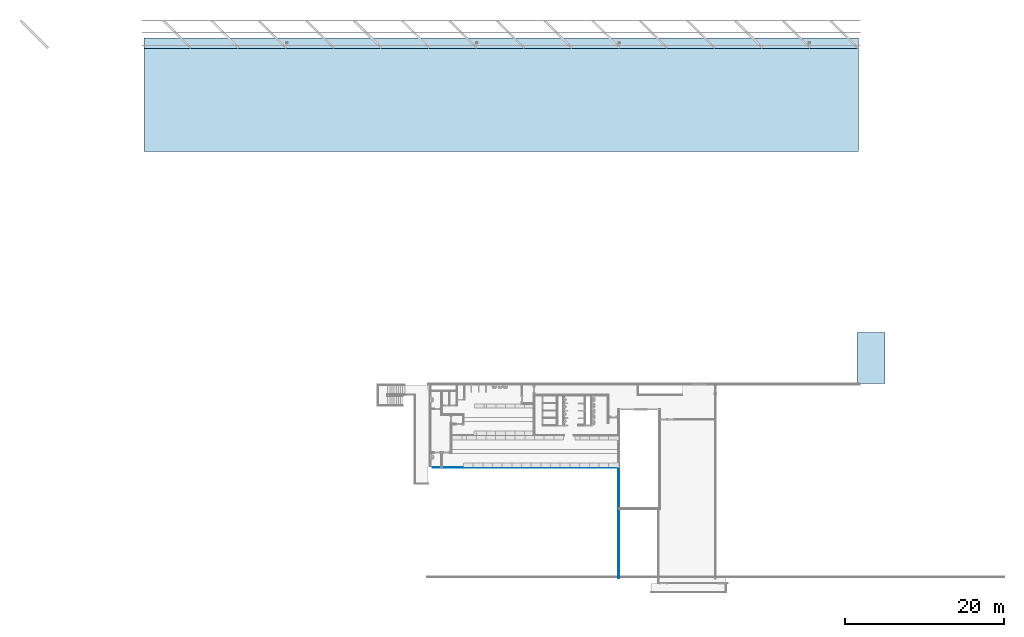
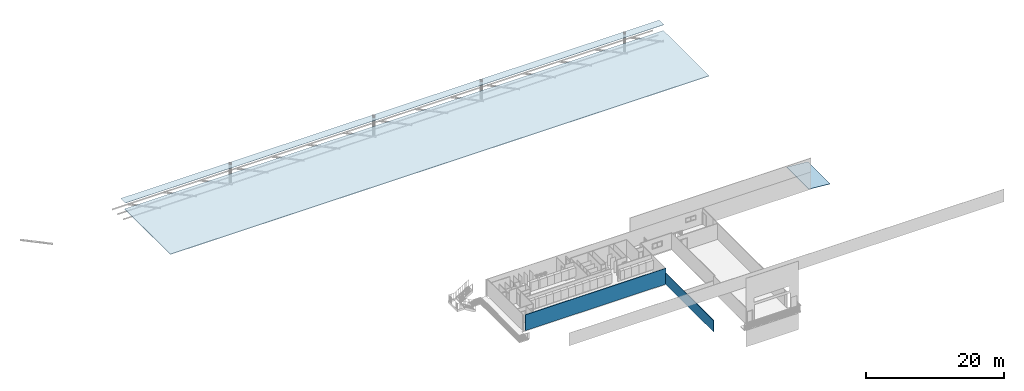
# One storey, part 4 of 14: 3 slabs, 2 walls, 1 element without a shape of its own.
"""IFC2X3 building model written with IfcOpenShell, lengths in millimetres."""

import ifcopenshell
import ifcopenshell.guid

model = None  # the IFC model being written
_history = None  # IfcOwnerHistory: only IFC2X3 demands one
_inside = {}  # id of a spatial element -> (the spatial element, [elements in it])
_under = {}  # id of a project, library or spatial element -> (it, [spatial elements below it])
_declared = {}  # id of a project -> (the project, [libraries it declares])
_typed = {}  # id of a type object -> (the type object, [elements of that type])
_made_of = {}  # id of a material, layer set ... -> (it, [elements and type objects made of it])


def new_model(schema):
    """Start an empty IFC model of exactly this schema.

    Asked for "IFC4X3", IfcOpenShell would pick the latest addendum, in which some entities
    have other attributes; the version numbers below select the first issue.
    IFC2X3 requires an IfcOwnerHistory on every rooted entity: one is made here for all.
    """
    global model, _history
    if schema == "IFC4X3":
        model = ifcopenshell.file(schema_version=(4, 3, 0, 0))
    else:
        model = ifcopenshell.file(schema=schema)
    _inside.clear()
    _under.clear()
    _declared.clear()
    _typed.clear()
    _made_of.clear()
    _history = None
    if model.schema == "IFC2X3":
        org = make("IfcOrganization", Name="unknown")
        user = make(
            "IfcPersonAndOrganization",
            ThePerson=make("IfcPerson", FamilyName="unknown"),
            TheOrganization=org,
        )
        app = make(
            "IfcApplication",
            ApplicationDeveloper=org,
            Version="unknown",
            ApplicationFullName="unknown",
            ApplicationIdentifier="unknown",
        )
        _history = make(
            "IfcOwnerHistory",
            OwningUser=user,
            OwningApplication=app,
            ChangeAction="ADDED",
            CreationDate=0,
        )
    return model


def make(cls, **values):
    """One entity of the class cls with the attributes given. An attribute that is None is left unset."""
    return model.create_entity(
        cls, **{name: value for name, value in values.items() if value is not None}
    )


def entity(cls, *values):
    """Any entity or typed value of the class cls, its attributes in the order of the schema. None: left unset."""
    e = model.create_entity(cls)
    for i, value in enumerate(values):
        if value is not None:
            e[i] = value
    return e


def rooted(cls, **values):
    """An entity with a GlobalId (a new one), such as an element, a storey or a relation."""
    return make(cls, GlobalId=ifcopenshell.guid.new(), OwnerHistory=_history, **values)


def si_unit(unit_type, name, prefix=None):
    """IfcSIUnit, for example si_unit("LENGTHUNIT", "METRE", prefix="MILLI")."""
    return make("IfcSIUnit", UnitType=unit_type, Prefix=prefix, Name=name)


def converted_unit(unit_type, name, factor, base, dimensions=None, offset=None):
    """IfcConversionBasedUnit, such as the inch: factor (a typed value) times the base unit."""
    return make(
        "IfcConversionBasedUnit"
        if offset is None
        else "IfcConversionBasedUnitWithOffset",
        ConversionOffset=offset,
        Dimensions=None
        if dimensions is None
        else entity("IfcDimensionalExponents", *dimensions),
        UnitType=unit_type,
        Name=name,
        ConversionFactor=make(
            "IfcMeasureWithUnit", ValueComponent=factor, UnitComponent=base
        ),
    )


def derived_unit(unit_type, elements):
    """IfcDerivedUnit: a product of units, each with its exponent."""
    return make(
        "IfcDerivedUnit",
        Elements=[
            make("IfcDerivedUnitElement", Unit=unit, Exponent=power)
            for unit, power in elements
        ],
        UnitType=unit_type,
    )


def assignment(units):
    """IfcUnitAssignment: the units of a project."""
    return None if units is None else make("IfcUnitAssignment", Units=units)


def point(xyz):
    """IfcCartesianPoint."""
    return None if xyz is None else make("IfcCartesianPoint", Coordinates=xyz)


def direction(xyz):
    """IfcDirection."""
    return None if xyz is None else make("IfcDirection", DirectionRatios=xyz)


def frame(location, z_axis=None, x_axis=None):
    """IfcAxis2Placement3D, a coordinate frame: its origin and axes. An axis left out is left unset."""
    return make(
        "IfcAxis2Placement3D",
        Location=point(location),
        Axis=direction(z_axis),
        RefDirection=direction(x_axis),
    )


def frame_2d(location, x_axis=None):
    """IfcAxis2Placement2D, a coordinate frame in the plane: its origin and x axis."""
    return make(
        "IfcAxis2Placement2D", Location=point(location), RefDirection=direction(x_axis)
    )


def origin():
    """The frame at (0, 0, 0) with its axes left unset."""
    return frame((0.0, 0.0, 0.0))


def place(relative_to, where):
    """IfcLocalPlacement: puts the frame where relative to a parent placement (None: the world)."""
    return make(
        "IfcLocalPlacement", PlacementRelTo=relative_to, RelativePlacement=where
    )


def context(
    kind, dimensions, precision=None, world=None, true_north=None, identifier=None
):
    """IfcGeometricRepresentationContext, for example the 3D "Model" context."""
    return make(
        "IfcGeometricRepresentationContext",
        ContextIdentifier=identifier,
        ContextType=kind,
        CoordinateSpaceDimension=dimensions,
        Precision=precision,
        WorldCoordinateSystem=world,
        TrueNorth=true_north,
    )


def subcontext(parent, identifier, kind, view, scale=None):
    """IfcGeometricRepresentationSubContext, for example "Body" below "Model"."""
    return make(
        "IfcGeometricRepresentationSubContext",
        ContextIdentifier=identifier,
        ContextType=kind,
        ParentContext=parent,
        TargetScale=scale,
        TargetView=view,
    )


def project(units=None, contexts=None):
    """IfcProject with its units and contexts."""
    return rooted(
        "IfcProject",
        Name="project",
        RepresentationContexts=contexts,
        UnitsInContext=assignment(units),
    )


def spatial(cls, under=None, at=None, **own):
    """A site, building, storey or space (cls), placed at a placement, below another one or the project."""
    s = rooted(cls, ObjectPlacement=at, **own)
    if under is not None:
        _under.setdefault(under.id(), (under, []))[1].append(s)
    return s


def profile(cls, at=None, kind="AREA", **sizes):
    """A parametric profile (cls). Its sizes go by their IFC names, for example OverallWidth=200.0."""
    return make(cls, ProfileType=kind, Position=at, **sizes)


def rectangle(**sizes):
    """IfcRectangleProfileDef."""
    return profile("IfcRectangleProfileDef", **sizes)


def extrude(swept, where, along, depth):
    """IfcExtrudedAreaSolid: the profile swept, set in the frame where, extruded along a direction by depth."""
    return make(
        "IfcExtrudedAreaSolid",
        SweptArea=swept,
        Position=where,
        ExtrudedDirection=direction(along),
        Depth=depth,
    )


def shape(context_of_items, identifier, shape_type, items):
    """IfcShapeRepresentation: the items that make up one representation, for example the "Body"."""
    return make(
        "IfcShapeRepresentation",
        ContextOfItems=context_of_items,
        RepresentationIdentifier=identifier,
        RepresentationType=shape_type,
        Items=items,
    )


def material(Name=None, Category=None):
    """IfcMaterial."""
    return make("IfcMaterial", Name=Name, Category=Category)


def layer(
    of_material, thickness, ventilated=None, Name=None, Category=None, Priority=None
):
    """IfcMaterialLayer: one layer of a wall or slab, of a material (None: an air gap)."""
    return make(
        "IfcMaterialLayer",
        Material=of_material,
        LayerThickness=thickness,
        IsVentilated=ventilated,
        Name=Name,
        Category=Category,
        Priority=Priority,
    )


def layer_set(layers, Name=None):
    """IfcMaterialLayerSet."""
    return make("IfcMaterialLayerSet", MaterialLayers=layers, LayerSetName=Name)


def layer_usage(for_layer_set, set_direction, sense, offset, extent=None):
    """IfcMaterialLayerSetUsage: how a layer set lies in its element."""
    return make(
        "IfcMaterialLayerSetUsage",
        ForLayerSet=for_layer_set,
        LayerSetDirection=set_direction,
        DirectionSense=sense,
        OffsetFromReferenceLine=offset,
        ReferenceExtent=extent,
    )


def made_of(thing, what):
    """Note that an element or type object is made of a material, layer set ...; save() writes the relation."""
    if what is not None:
        _made_of.setdefault(what.id(), (what, []))[1].append(thing)
    return thing


def type_object(cls, material=None, **own):
    """A type object (cls), such as IfcWallType, which elements share."""
    return made_of(rooted(cls, **own), material)


def element(
    cls,
    number,
    at=None,
    inside=None,
    cuts=None,
    type_object=None,
    material=None,
    context=None,
    identifier="Body",
    shape_type=None,
    held_by="IfcProductDefinitionShape",
    body=None,
    shapes=None,
    **own,
):
    """One element of the class cls, such as IfcWall. Its Tag is "e" and its number.

    at: its placement. inside: the storey or other place that contains it. cuts: it is an
    opening in that element (IfcRelVoidsElement). A single representation is given by context,
    identifier, shape_type and body (its items); several are given by shapes. held_by: the class
    of the entity that holds the representations. save() writes the other relations.
    """
    e = rooted(cls, Tag="e%d" % number, ObjectPlacement=at, **own)
    if body is not None:
        shapes = [shape(context, identifier, shape_type, body)]
    if shapes is not None:
        e.Representation = make(held_by, Representations=shapes)
    if inside is not None:
        _inside.setdefault(inside.id(), (inside, []))[1].append(e)
    if cuts is not None:
        rooted(
            "IfcRelVoidsElement", RelatingBuildingElement=cuts, RelatedOpeningElement=e
        )
    if type_object is not None:
        _typed.setdefault(type_object.id(), (type_object, []))[1].append(e)
    return made_of(e, material)


def aggregate(whole, parts):
    """IfcRelAggregates: a whole, such as a stair, and the parts it consists of."""
    return rooted("IfcRelAggregates", RelatingObject=whole, RelatedObjects=parts)


def save(model, path):
    """Write the relations noted so far, then the file.

    IfcRelAggregates (storeys below a building ...), IfcRelContainedInSpatialStructure (elements
    in a storey), IfcRelDefinesByType, IfcRelAssociatesMaterial and IfcRelDeclares: one each for
    every whole, place, type object, material and project.
    """
    for whole, parts in _under.values():
        aggregate(whole, parts)
    for where, things in _inside.values():
        rooted(
            "IfcRelContainedInSpatialStructure",
            RelatedElements=things,
            RelatingStructure=where,
        )
    for kind, things in _typed.values():
        rooted("IfcRelDefinesByType", RelatedObjects=things, RelatingType=kind)
    for what, things in _made_of.values():
        rooted("IfcRelAssociatesMaterial", RelatedObjects=things, RelatingMaterial=what)
    for by, libraries in _declared.values():
        rooted("IfcRelDeclares", RelatingContext=by, RelatedDefinitions=libraries)
    model.write(path)


model = new_model("IFC2X3")

# Units and contexts
model_context = context("Model", 3, precision=0.01, world=origin(), true_north=direction((4.05803320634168e-15, -1.0)))
body_context = subcontext(model_context, "Body", "Model", "MODEL_VIEW")
ifc_project = project(units=[si_unit("LENGTHUNIT", "METRE", prefix="MILLI"), si_unit("AREAUNIT", "SQUARE_METRE"), si_unit("VOLUMEUNIT", "CUBIC_METRE"), converted_unit("PLANEANGLEUNIT", "DEGREE", entity("IfcRatioMeasure", 0.0174532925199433), si_unit("PLANEANGLEUNIT", "RADIAN"), dimensions=[0, 0, 0, 0, 0, 0, 0]), si_unit("MASSUNIT", "GRAM", prefix="KILO"), derived_unit("MASSDENSITYUNIT", [(si_unit("MASSUNIT", "GRAM", prefix="KILO"), 1), (si_unit("LENGTHUNIT", "METRE"), -3)]), si_unit("TIMEUNIT", "SECOND"), si_unit("FREQUENCYUNIT", "HERTZ"), si_unit("THERMODYNAMICTEMPERATUREUNIT", "DEGREE_CELSIUS"), derived_unit("THERMALTRANSMITTANCEUNIT", [(si_unit("MASSUNIT", "GRAM", prefix="KILO"), 1), (si_unit("THERMODYNAMICTEMPERATUREUNIT", "KELVIN"), -1), (si_unit("TIMEUNIT", "SECOND"), -3)]), derived_unit("VOLUMETRICFLOWRATEUNIT", [(si_unit("LENGTHUNIT", "METRE"), 3), (si_unit("TIMEUNIT", "SECOND"), -1)]), si_unit("ELECTRICCURRENTUNIT", "AMPERE"), si_unit("ELECTRICVOLTAGEUNIT", "VOLT"), si_unit("POWERUNIT", "WATT"), si_unit("FORCEUNIT", "NEWTON", prefix="KILO"), si_unit("ILLUMINANCEUNIT", "LUX"), si_unit("LUMINOUSFLUXUNIT", "LUMEN"), si_unit("LUMINOUSINTENSITYUNIT", "CANDELA"), derived_unit("USERDEFINED", [(si_unit("MASSUNIT", "GRAM", prefix="KILO"), -1), (si_unit("LENGTHUNIT", "METRE"), -2), (si_unit("TIMEUNIT", "SECOND"), 3), (si_unit("LUMINOUSFLUXUNIT", "LUMEN"), 1)]), derived_unit("LINEARVELOCITYUNIT", [(si_unit("LENGTHUNIT", "METRE"), 1), (si_unit("TIMEUNIT", "SECOND"), -1)]), si_unit("PRESSUREUNIT", "PASCAL"), derived_unit("USERDEFINED", [(si_unit("LENGTHUNIT", "METRE"), -2), (si_unit("MASSUNIT", "GRAM", prefix="KILO"), 1), (si_unit("TIMEUNIT", "SECOND"), -2)])], contexts=[model_context])

# Site, building, storey
site_placement = place(None, frame((927466.849349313, 583801.882853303, 0.0), z_axis=(0.0, 0.0, 1.0), x_axis=(-1.0, 0.0, 0.0)))
site = spatial("IfcSite", under=ifc_project, at=site_placement, Name="Surface", CompositionType="ELEMENT")
building_placement = place(site_placement, origin())
building = spatial("IfcBuilding", under=site, at=building_placement, CompositionType="ELEMENT")
storey_placement = place(building_placement, frame((0.0, 0.0, 48170.0)))
storey = spatial("IfcBuildingStorey", under=building, at=storey_placement, Name="First floor", CompositionType="ELEMENT", Elevation=48170.0)

# Slabs
ifc_material_1 = material(Name="Cladding")
ifc_layer_1 = layer(ifc_material_1, 50.0)
ifc_layer_set_1 = layer_set([ifc_layer_1], Name="Floor:cladding")
ifc_layer_usage_1 = layer_usage(ifc_layer_set_1, "AXIS3", "POSITIVE", 0.0)
slab_1_placement = place(storey_placement, origin())
element("IfcSlab", 1, at=slab_1_placement, inside=storey, material=ifc_layer_usage_1, Name="Floor:cladding", ObjectType="Floor:cladding", PredefinedType="FLOOR", context=body_context, shape_type="SweptSolid", body=[
    extrude(rectangle(XDim=1338.00000000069, YDim=89999.9999999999, at=frame_2d((0.0, 7.27595761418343e-12), x_axis=(1.0, 0.0))), frame((-90100.59177989, -30990.7403210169, 3250.0), z_axis=(0.0, 0.0, -1.0), x_axis=(0.0, 1.0, 0.0)), (0.0, 0.0, 1.0), 49.9999999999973),
])
ifc_material_2 = material(Name="Isopenal")
ifc_layer_2 = layer(ifc_material_2, 100.0)
ifc_layer_set_2 = layer_set([ifc_layer_2], Name="Floor:isopanel ceiling")
ifc_layer_usage_2 = layer_usage(ifc_layer_set_2, "AXIS3", "POSITIVE", 0.0)
slab_2_placement = place(storey_placement, origin())
element("IfcSlab", 2, at=slab_2_placement, inside=storey, material=ifc_layer_usage_2, Name="Floor:isopanel ceiling", ObjectType="Floor:isopanel ceiling", PredefinedType="FLOOR", context=body_context, shape_type="SweptSolid", body=[
    extrude(rectangle(XDim=13200.0000000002, YDim=89999.9999999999, at=frame_2d((0.0, 7.27595761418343e-12), x_axis=(1.0, 0.0))), frame((-90100.5917798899, -23921.7403210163, 2100.0), z_axis=(0.0, 0.0, -1.0), x_axis=(0.0, 1.0, 0.0)), (0.0, 0.0, 1.0), 100.000000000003),
])

# Roof, slab
roof_placement = place(storey_placement, frame((-138445.77985842, 5475.22253534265, -500.0)))
roof = element("IfcRoof", 3, at=roof_placement, inside=storey, Name="Basic Roof:50", ObjectType="Basic Roof:50", ShapeType="NOTDEFINED")
ifc_material_3 = material(Name="Aluminum")
ifc_layer_3 = layer(ifc_material_3, 50.0)
ifc_layer_set_3 = layer_set([ifc_layer_3], Name="Basic Roof:50")
slab_3_placement = place(roof_placement, origin())
slab_3 = element("IfcSlab", 4, at=slab_3_placement, material=ifc_layer_set_3, Name="Basic Roof:50", ObjectType="Basic Roof:50", PredefinedType="ROOF", context=body_context, shape_type="SweptSolid", body=[
    extrude(rectangle(XDim=3558.73012105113, YDim=6433.05521587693, at=frame_2d((-8.64019966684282e-12, 0.0), x_axis=(1.0, 0.0))), frame((1772.59403926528, 3216.52760793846, 155.081883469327), z_axis=(-0.0871557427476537, 0.0, 0.996194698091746), x_axis=(0.996194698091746, 0.0, 0.0871557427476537)), (0.0871557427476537, 0.0, 0.996194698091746), 50.1909918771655),
])
aggregate(roof, [slab_3])

# Walls
ifc_layer_4 = layer(ifc_material_2, 100.0)
ifc_layer_set_4 = layer_set([ifc_layer_4], Name="Basic Wall:Isopanel")
ifc_layer_usage_3 = layer_usage(ifc_layer_set_4, "AXIS2", "NEGATIVE", 50.0)
wall_type = type_object("IfcWallType", Name="Basic Wall:Isopanel", PredefinedType="STANDARD", material=ifc_layer_set_4)
wall_1_placement = place(storey_placement, frame((-104947.937276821, 22457.470326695, 0.0)))
element("IfcWallStandardCase", 5, at=wall_1_placement, inside=storey, type_object=wall_type, material=ifc_layer_usage_3, Name="Basic Wall:Isopanel", ObjectType="Basic Wall:Isopanel", context=body_context, shape_type="SweptSolid", body=[
    extrude(rectangle(XDim=23500.0000000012, YDim=100.000000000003, at=frame_2d((11750.0000000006, -1.91135995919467e-12), x_axis=(-1.0, 0.0))), origin(), (0.0, 0.0, 1.0), 2800.0),
])
ifc_layer_usage_4 = layer_usage(ifc_layer_set_4, "AXIS2", "NEGATIVE", 50.0)
wall_2_placement = place(storey_placement, frame((-104897.937276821, 22305.9699019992, 0.0), z_axis=(0.0, 0.0, 1.0), x_axis=(0.0, 1.0, 0.0)))
element("IfcWallStandardCase", 6, at=wall_2_placement, inside=storey, type_object=wall_type, material=ifc_layer_usage_4, Name="Basic Wall:Isopanel", ObjectType="Basic Wall:Isopanel", context=body_context, shape_type="SweptSolid", body=[
    extrude(rectangle(XDim=14100.0, YDim=100.000000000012, at=frame_2d((7050.0, 4.71800376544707e-12), x_axis=(-1.0, 0.0))), origin(), (0.0, 0.0, 1.0), 2000.0),
])

save(model, "model.ifc")
